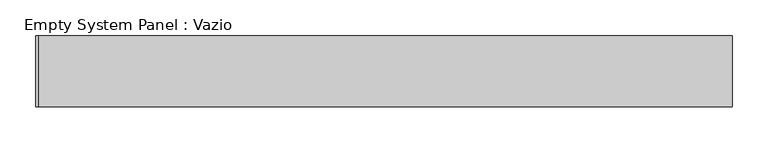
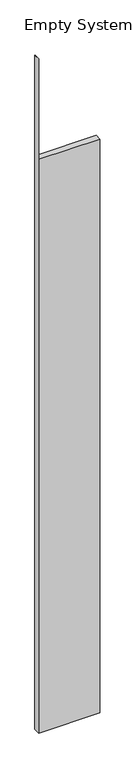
"""IFC4 building model written with IfcOpenShell, lengths in millimetres: plate geometry, Empty System Panel : Vazio."""

from ifc_helpers import new_model, si_unit, frame, origin, place, context, project, spatial, polyline, outline, extrude, source, transform, mapped, element, save


def empty_system_panel_vazio_bbd75919(model_context):
    return source(origin(), model_context, "Body", "SweptSolid", [
        extrude(outline(polyline([(0.0, -490.0), (0.0, 490.0), (9686.6583917, 490.0), (9686.59716, -486.3739), (11385.0261395, -486.4339551), (11385.0259158, -490.0), (0.0, -490.0)])), frame((0.0, 50.0, 0.0), z_axis=(0.0, 1.0, 0.0), x_axis=(0.0, 0.0, 1.0)), (0.0, 0.0, 1.0), 100.0),
    ])


if __name__ == "__main__":
    model = new_model("IFC4")
    model_context = context("Model", 3, world=origin())
    ifc_project = project(units=[si_unit("LENGTHUNIT", "METRE", prefix="MILLI")], contexts=[model_context])
    site = spatial("IfcSite", under=ifc_project)
    building = spatial("IfcBuilding", under=site)
    placement = place(None, origin())
    empty_system_panel_vazio_shape = empty_system_panel_vazio_bbd75919(model_context)
    element("IfcPlate", 1, ObjectType="Empty System Panel : Vazio", at=placement, inside=building, context=model_context, shape_type="MappedRepresentation", body=[
        mapped(empty_system_panel_vazio_shape, transform((0.0, 0.0, 0.0), x_axis=(1.0, 0.0, 0.0), y_axis=(0.0, 1.0, 0.0), z_axis=(0.0, 0.0, 1.0))),
    ])
    save(model, "model.ifc")
